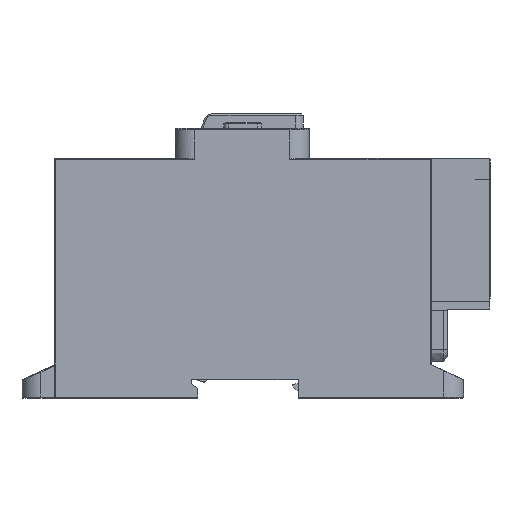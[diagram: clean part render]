
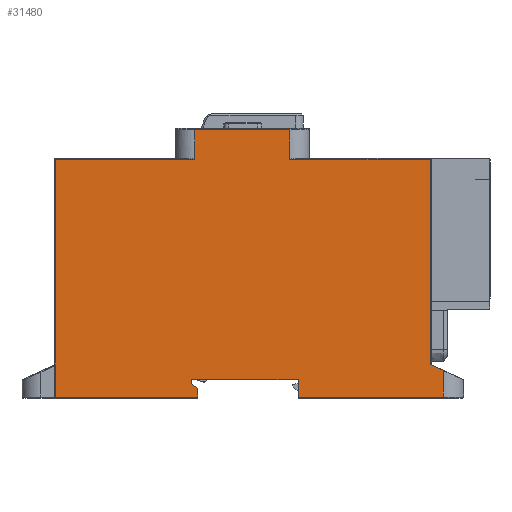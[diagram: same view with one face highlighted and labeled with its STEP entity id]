
A CAD part, left-side view. The second image highlights one B-rep face of the part: STEP entity #31480.
In plain terms, the highlighted planar face has unit normal (-1, 0, 0).
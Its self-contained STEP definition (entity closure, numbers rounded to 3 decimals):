
#701=DIRECTION('',(0.,-1.,0.));
#702=VECTOR('',#701,47.2);
#703=CARTESIAN_POINT('',(0.,144.2,0.3));
#704=LINE('',#703,#702);
#730=DIRECTION('',(0.,0.005,1.));
#731=VECTOR('',#730,5.987);
#732=CARTESIAN_POINT('',(0.,63.62,
0.3));
#733=LINE('',#732,#731);
#734=DIRECTION('',(0.,1.,0.));
#735=VECTOR('',#734,35.497);
#736=CARTESIAN_POINT('',(0.,63.652,6.287));
#737=LINE('',#736,#735);
#738=DIRECTION('',(0.,0.005,-1.));
#739=VECTOR('',#738,1.595);
#740=CARTESIAN_POINT('',(0.,99.148,6.3));
#741=LINE('',#740,#739);
#742=DIRECTION('',(0.,-0.819,-0.574));
#743=VECTOR('',#742,2.633);
#744=CARTESIAN_POINT('',(0.,99.157,4.705));
#745=LINE('',#744,#743);
#746=DIRECTION('',(0.,0.,-1.));
#747=VECTOR('',#746,2.895);
#748=CARTESIAN_POINT('',(0.,97.,3.195));
#749=LINE('',#748,#747);
#750=DIRECTION('',(0.,0.,1.));
#751=VECTOR('',#750,9.801);
#752=CARTESIAN_POINT('',(0.,97.977,79.199));
#753=LINE('',#752,#751);
#754=DIRECTION('',(0.,-1.,0.));
#755=VECTOR('',#754,31.599);
#756=CARTESIAN_POINT('',(0.,97.977,89.));
#757=LINE('',#756,#755);
#758=DIRECTION('',(0.,0.013,-1.));
#759=VECTOR('',#758,9.802);
#760=CARTESIAN_POINT('',(0.,66.378,89.));
#761=LINE('',#760,#759);
#762=DIRECTION('',(0.,-0.907,-0.42));
#763=VECTOR('',#762,4.738);
#764=CARTESIAN_POINT('',(0.,19.8,11.139));
#765=LINE('',#764,#763);
#766=DIRECTION('',(0.,-1.,0.));
#767=VECTOR('',#766,48.12);
#768=CARTESIAN_POINT('',(0.,63.62,
0.3));
#769=LINE('',#768,#767);
#786=CARTESIAN_POINT('',(0.,63.652,6.287));
#1296=DIRECTION('',(0.,0.,1.));
#1297=VECTOR('',#1296,8.848);
#1298=CARTESIAN_POINT('',(0.,15.5,0.3));
#1299=LINE('',#1298,#1297);
#1319=CARTESIAN_POINT('',(0.,15.5,9.148));
#6652=DIRECTION('',(0.,0.,1.));
#6653=VECTOR('',#6652,68.06);
#6654=CARTESIAN_POINT('',(0.,19.8,11.139));
#6655=LINE('',#6654,#6653);
#6664=DIRECTION('',(0.,1.,0.));
#6665=VECTOR('',#6664,46.704);
#6666=CARTESIAN_POINT('',(0.,19.8,79.199));
#6667=LINE('',#6666,#6665);
#6729=DIRECTION('',(0.,1.,0.));
#6730=VECTOR('',#6729,46.223);
#6731=CARTESIAN_POINT('',(0.,97.977,79.199));
#6732=LINE('',#6731,#6730);
#7769=CARTESIAN_POINT('',(0.,99.148,6.3));
#17175=DIRECTION('',(0.,0.,-1.));
#17176=VECTOR('',#17175,78.899);
#17177=CARTESIAN_POINT('',(0.,144.2,79.199));
#17178=LINE('',#17177,#17176);
#23833=CARTESIAN_POINT('',(0.,97.,3.195));
#23834=VERTEX_POINT('',#23833);
#23835=CARTESIAN_POINT('',(0.,99.157,
4.705));
#23836=VERTEX_POINT('',#23835);
#24573=VERTEX_POINT('',#1319);
#24574=CARTESIAN_POINT('',(0.,19.8,11.139));
#24575=VERTEX_POINT('',#24574);
#26609=VERTEX_POINT('',#786);
#26610=CARTESIAN_POINT('',(0.,63.62,
0.3));
#26611=VERTEX_POINT('',#26610);
#26792=VERTEX_POINT('',#7769);
#26805=CARTESIAN_POINT('',(0.,97.,0.3));
#26806=VERTEX_POINT('',#26805);
#29177=CARTESIAN_POINT('',(0.,144.2,0.3));
#29178=VERTEX_POINT('',#29177);
#29179=CARTESIAN_POINT('',(0.,144.2,79.199));
#29180=VERTEX_POINT('',#29179);
#29622=CARTESIAN_POINT('',(0.,97.977,89.));
#29623=VERTEX_POINT('',#29622);
#29624=CARTESIAN_POINT('',(0.,97.977,79.199));
#29625=VERTEX_POINT('',#29624);
#29626=CARTESIAN_POINT('',(0.,15.5,0.3));
#29627=VERTEX_POINT('',#29626);
#29628=CARTESIAN_POINT('',(0.,66.378,
89.));
#29629=VERTEX_POINT('',#29628);
#29630=CARTESIAN_POINT('',(0.,66.504,79.199));
#29631=VERTEX_POINT('',#29630);
#29632=CARTESIAN_POINT('',(0.,19.8,79.199));
#29633=VERTEX_POINT('',#29632);
#31443=CARTESIAN_POINT('',(0.,156.,0.));
#31444=DIRECTION('',(-1.,0.,0.));
#31445=DIRECTION('',(0.,-1.,0.));
#31446=AXIS2_PLACEMENT_3D('',#31443,#31444,#31445);
#31447=PLANE('',#31446);
#31449=ORIENTED_EDGE('',*,*,#31448,.F.);
#31451=ORIENTED_EDGE('',*,*,#31450,.T.);
#31453=ORIENTED_EDGE('',*,*,#31452,.T.);
#31455=ORIENTED_EDGE('',*,*,#31454,.T.);
#31457=ORIENTED_EDGE('',*,*,#31456,.T.);
#31458=ORIENTED_EDGE('',*,*,#31426,.T.);
#31459=ORIENTED_EDGE('',*,*,#31415,.F.);
#31461=ORIENTED_EDGE('',*,*,#31460,.F.);
#31463=ORIENTED_EDGE('',*,*,#31462,.F.);
#31465=ORIENTED_EDGE('',*,*,#31464,.T.);
#31467=ORIENTED_EDGE('',*,*,#31466,.T.);
#31469=ORIENTED_EDGE('',*,*,#31468,.T.);
#31471=ORIENTED_EDGE('',*,*,#31470,.F.);
#31473=ORIENTED_EDGE('',*,*,#31472,.F.);
#31475=ORIENTED_EDGE('',*,*,#31474,.T.);
#31477=ORIENTED_EDGE('',*,*,#31476,.F.);
#31478=EDGE_LOOP('',(#31449,#31451,#31453,#31455,#31457,#31458,#31459,#31461,
#31463,#31465,#31467,#31469,#31471,#31473,#31475,#31477));
#31479=FACE_OUTER_BOUND('',#31478,.F.);
#31480=ADVANCED_FACE('',(#31479),#31447,.T.);
#31415=EDGE_CURVE('',#29178,#26806,#704,.T.);
#31426=EDGE_CURVE('',#23834,#26806,#749,.T.);
#31448=EDGE_CURVE('',#26611,#29627,#769,.T.);
#31450=EDGE_CURVE('',#26611,#26609,#733,.T.);
#31452=EDGE_CURVE('',#26609,#26792,#737,.T.);
#31454=EDGE_CURVE('',#26792,#23836,#741,.T.);
#31456=EDGE_CURVE('',#23836,#23834,#745,.T.);
#31460=EDGE_CURVE('',#29180,#29178,#17178,.T.);
#31462=EDGE_CURVE('',#29625,#29180,#6732,.T.);
#31464=EDGE_CURVE('',#29625,#29623,#753,.T.);
#31466=EDGE_CURVE('',#29623,#29629,#757,.T.);
#31468=EDGE_CURVE('',#29629,#29631,#761,.T.);
#31470=EDGE_CURVE('',#29633,#29631,#6667,.T.);
#31472=EDGE_CURVE('',#24575,#29633,#6655,.T.);
#31474=EDGE_CURVE('',#24575,#24573,#765,.T.);
#31476=EDGE_CURVE('',#29627,#24573,#1299,.T.);
